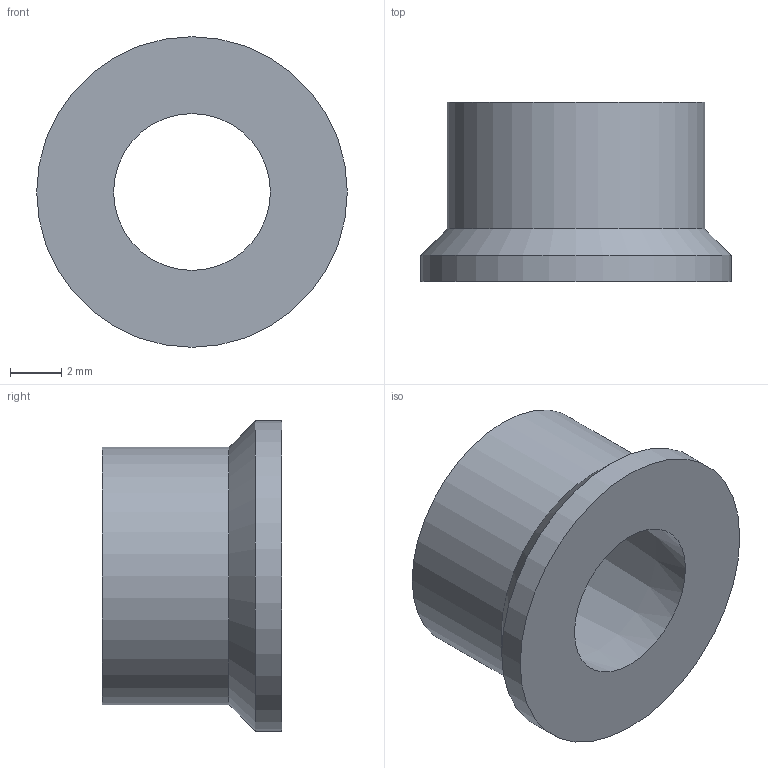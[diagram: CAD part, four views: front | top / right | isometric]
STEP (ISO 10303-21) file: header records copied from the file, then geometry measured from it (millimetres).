
FILE_DESCRIPTION(/* description */ ('STEP AP214','CAx-IF Rec.Pracs.---User Defined Attributes---1.5---2016-08-15'),/* implementation_level */ '2;1');
FILE_NAME(/* name */ '6adec05f98f5f667e212993f',/* time_stamp */ '2026-10-26T02:52:16Z',/* author */ (''),/* organization */ (''),/* preprocessor_version */ 'ST-DEVELOPER v20',/* originating_system */ 'ONSHAPE BY PTC INC, 1.222',/* authorisation */ ' ');
FILE_SCHEMA (('AUTOMOTIVE_DESIGN {1 0 10303 214 3 1 1}'));
Length unit declared in the file: metre
Products named in the file (1): BLDC_A2212_13T_1000KV_PropCollar-1
Bounding box: 12.06 x 6.96 x 12.06 mm (x, y, z)
Volume: 343.3 mm3; surface area: 512.5 mm2
Topology: 1 solids, 1 shells, 6 faces, 10 edges, 6 vertices
Faces by surface type: plane 2, cylinder 2, cone 2
Full cylindrical faces by diameter (mm): 10.008 x1, 12.065 x1
Entity records: 158 total; most frequent: DIRECTION 26, CARTESIAN_POINT 19, AXIS2_PLACEMENT_3D 13, ORIENTED_EDGE 12, EDGE_LOOP 12, FACE_BOUND 12, EDGE_CURVE 6, VERTEX_POINT 6
